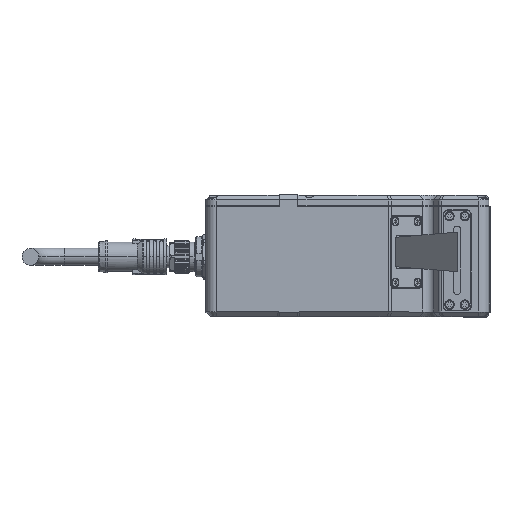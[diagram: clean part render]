
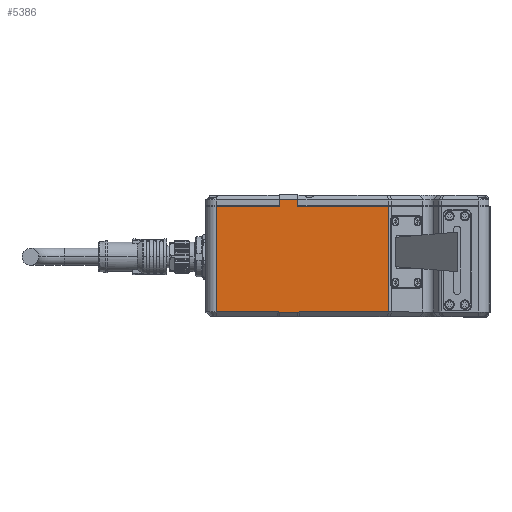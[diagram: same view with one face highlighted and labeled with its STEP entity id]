
A CAD part, top view. The second image highlights one B-rep face of the part: STEP entity #5386.
In plain terms, the highlighted planar face has unit normal (0, 0, -1).
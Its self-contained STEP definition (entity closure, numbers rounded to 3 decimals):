
#1542=DIRECTION('',(0.,1.,0.));
#1543=VECTOR('',#1542,46.7);
#1544=CARTESIAN_POINT('',(18.,2.6,-27.2));
#1545=LINE('',#1544,#1543);
#1550=DIRECTION('',(0.,1.,0.));
#1551=VECTOR('',#1550,3.1);
#1552=CARTESIAN_POINT('',(54.,49.3,-27.2));
#1553=LINE('',#1552,#1551);
#1554=DIRECTION('',(-1.,0.,0.));
#1555=VECTOR('',#1554,8.);
#1556=CARTESIAN_POINT('',(54.,52.4,-27.2));
#1557=LINE('',#1556,#1555);
#1558=DIRECTION('',(1.,0.,0.));
#1559=VECTOR('',#1558,27.261);
#1560=CARTESIAN_POINT('',(18.,2.6,-27.2));
#1561=LINE('',#1560,#1559);
#1562=CARTESIAN_POINT('',(54.,2.4,-27.2));
#1563=CARTESIAN_POINT('',(54.035,2.42,-27.2));
#1564=CARTESIAN_POINT('',(54.105,2.456,-27.2));
#1565=CARTESIAN_POINT('',(54.21,2.501,-27.2));
#1566=CARTESIAN_POINT('',(54.313,2.536,-27.2));
#1567=CARTESIAN_POINT('',(54.419,2.565,-27.2));
#1568=CARTESIAN_POINT('',(54.53,2.586,-27.2));
#1569=CARTESIAN_POINT('',(54.636,2.598,-27.2));
#1570=CARTESIAN_POINT('',(54.705,2.6,-27.2));
#1571=CARTESIAN_POINT('',(54.739,2.6,-27.2));
#1573=DIRECTION('',(-1.,0.,0.));
#1574=VECTOR('',#1573,39.476);
#1575=CARTESIAN_POINT('',(94.215,2.6,-27.2));
#1576=LINE('',#1575,#1574);
#2189=DIRECTION('',(1.,0.,0.));
#2190=VECTOR('',#2189,28.);
#2191=CARTESIAN_POINT('',(18.,49.3,-27.2));
#2192=LINE('',#2191,#2190);
#2202=DIRECTION('',(1.,0.,0.));
#2203=VECTOR('',#2202,40.211);
#2204=CARTESIAN_POINT('',(54.,49.3,-27.2));
#2205=LINE('',#2204,#2203);
#2245=CARTESIAN_POINT('',(94.211,49.3,-27.2));
#2246=CARTESIAN_POINT('',(94.212,33.733,-27.2));
#2247=CARTESIAN_POINT('',(94.214,18.167,-27.2));
#2248=CARTESIAN_POINT('',(94.215,2.6,-27.2));
#2880=DIRECTION('',(0.,1.,0.));
#2881=VECTOR('',#2880,3.1);
#2882=CARTESIAN_POINT('',(46.,49.3,-27.2));
#2883=LINE('',#2882,#2881);
#3013=DIRECTION('',(-1.,0.,0.));
#3014=VECTOR('',#3013,8.);
#3015=CARTESIAN_POINT('',(54.,2.4,-27.2));
#3016=LINE('',#3015,#3014);
#3037=CARTESIAN_POINT('',(46.,2.4,-27.2));
#3038=CARTESIAN_POINT('',(45.885,2.465,-27.2));
#3039=CARTESIAN_POINT('',(45.647,2.564,-27.2));
#3040=CARTESIAN_POINT('',(45.393,2.6,-27.2));
#3041=CARTESIAN_POINT('',(45.261,2.6,-27.2));
#3940=CARTESIAN_POINT('',(18.,2.6,-27.2));
#3941=VERTEX_POINT('',#3940);
#3942=CARTESIAN_POINT('',(18.,49.3,-27.2));
#3943=VERTEX_POINT('',#3942);
#3944=CARTESIAN_POINT('',(94.215,2.6,-27.2));
#3945=CARTESIAN_POINT('',(54.739,2.6,-27.2));
#3946=VERTEX_POINT('',#3944);
#3947=VERTEX_POINT('',#3945);
#3948=VERTEX_POINT('',#2245);
#3949=CARTESIAN_POINT('',(54.,49.3,-27.2));
#3950=VERTEX_POINT('',#3949);
#3951=CARTESIAN_POINT('',(54.,52.4,-27.2));
#3952=VERTEX_POINT('',#3951);
#3953=CARTESIAN_POINT('',(46.,52.4,-27.2));
#3954=VERTEX_POINT('',#3953);
#3955=CARTESIAN_POINT('',(46.,49.3,-27.2));
#3956=VERTEX_POINT('',#3955);
#3957=CARTESIAN_POINT('',(45.261,2.6,-27.2));
#3958=VERTEX_POINT('',#3957);
#3959=VERTEX_POINT('',#3037);
#3960=CARTESIAN_POINT('',(54.,2.4,-27.2));
#3961=VERTEX_POINT('',#3960);
#5356=CARTESIAN_POINT('',(56.107,27.4,-27.2));
#5357=DIRECTION('',(0.,0.,1.));
#5358=DIRECTION('',(1.,0.,0.));
#5359=AXIS2_PLACEMENT_3D('',#5356,#5357,#5358);
#5360=PLANE('',#5359);
#5362=ORIENTED_EDGE('',*,*,#5361,.F.);
#5364=ORIENTED_EDGE('',*,*,#5363,.F.);
#5366=ORIENTED_EDGE('',*,*,#5365,.F.);
#5368=ORIENTED_EDGE('',*,*,#5367,.T.);
#5370=ORIENTED_EDGE('',*,*,#5369,.T.);
#5372=ORIENTED_EDGE('',*,*,#5371,.F.);
#5374=ORIENTED_EDGE('',*,*,#5373,.F.);
#5375=ORIENTED_EDGE('',*,*,#5348,.F.);
#5377=ORIENTED_EDGE('',*,*,#5376,.T.);
#5379=ORIENTED_EDGE('',*,*,#5378,.F.);
#5381=ORIENTED_EDGE('',*,*,#5380,.F.);
#5383=ORIENTED_EDGE('',*,*,#5382,.T.);
#5384=EDGE_LOOP('',(#5362,#5364,#5366,#5368,#5370,#5372,#5374,#5375,#5377,#5379,
#5381,#5383));
#5385=FACE_OUTER_BOUND('',#5384,.F.);
#1572=B_SPLINE_CURVE_WITH_KNOTS('',3,(#1562,#1563,#1564,#1565,#1566,#1567,#1568,
#1569,#1570,#1571),.UNSPECIFIED.,.F.,.F.,(4,1,1,1,1,1,1,4),(0.,
0.143,0.286,0.429,0.571,
0.714,0.857,1.),.UNSPECIFIED.);
#2249=B_SPLINE_CURVE_WITH_KNOTS('',3,(#2245,#2246,#2247,#2248),.UNSPECIFIED.,
.F.,.F.,(4,4),(0.,1.),.UNSPECIFIED.);
#3042=B_SPLINE_CURVE_WITH_KNOTS('',3,(#3037,#3038,#3039,#3040,#3041),
.UNSPECIFIED.,.F.,.F.,(4,1,4),(0.,0.5,1.),.UNSPECIFIED.);
#5348=EDGE_CURVE('',#3941,#3943,#1545,.T.);
#5361=EDGE_CURVE('',#3946,#3947,#1576,.T.);
#5363=EDGE_CURVE('',#3948,#3946,#2249,.T.);
#5365=EDGE_CURVE('',#3950,#3948,#2205,.T.);
#5367=EDGE_CURVE('',#3950,#3952,#1553,.T.);
#5369=EDGE_CURVE('',#3952,#3954,#1557,.T.);
#5371=EDGE_CURVE('',#3956,#3954,#2883,.T.);
#5373=EDGE_CURVE('',#3943,#3956,#2192,.T.);
#5376=EDGE_CURVE('',#3941,#3958,#1561,.T.);
#5378=EDGE_CURVE('',#3959,#3958,#3042,.T.);
#5380=EDGE_CURVE('',#3961,#3959,#3016,.T.);
#5382=EDGE_CURVE('',#3961,#3947,#1572,.T.);
#5386=ADVANCED_FACE('',(#5385),#5360,.F.);
